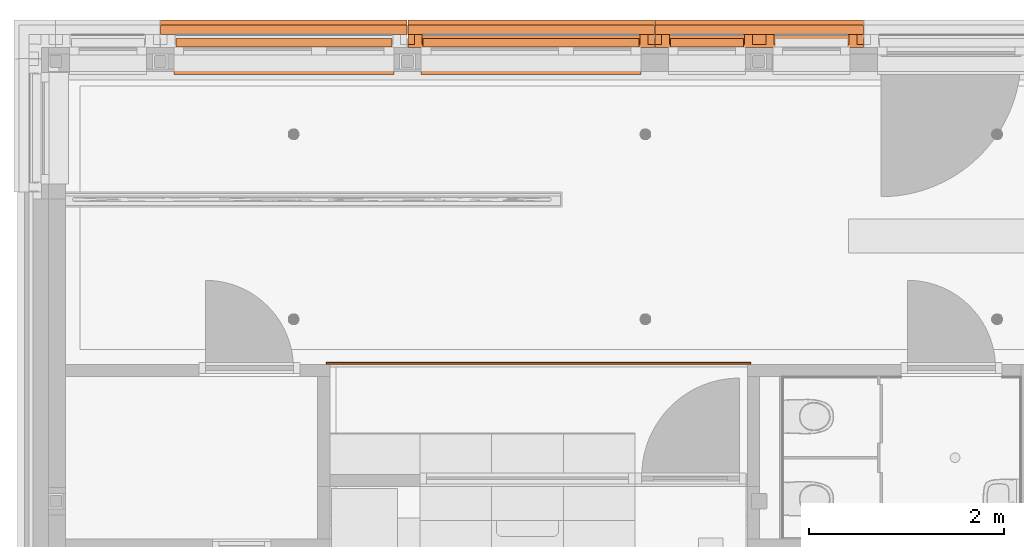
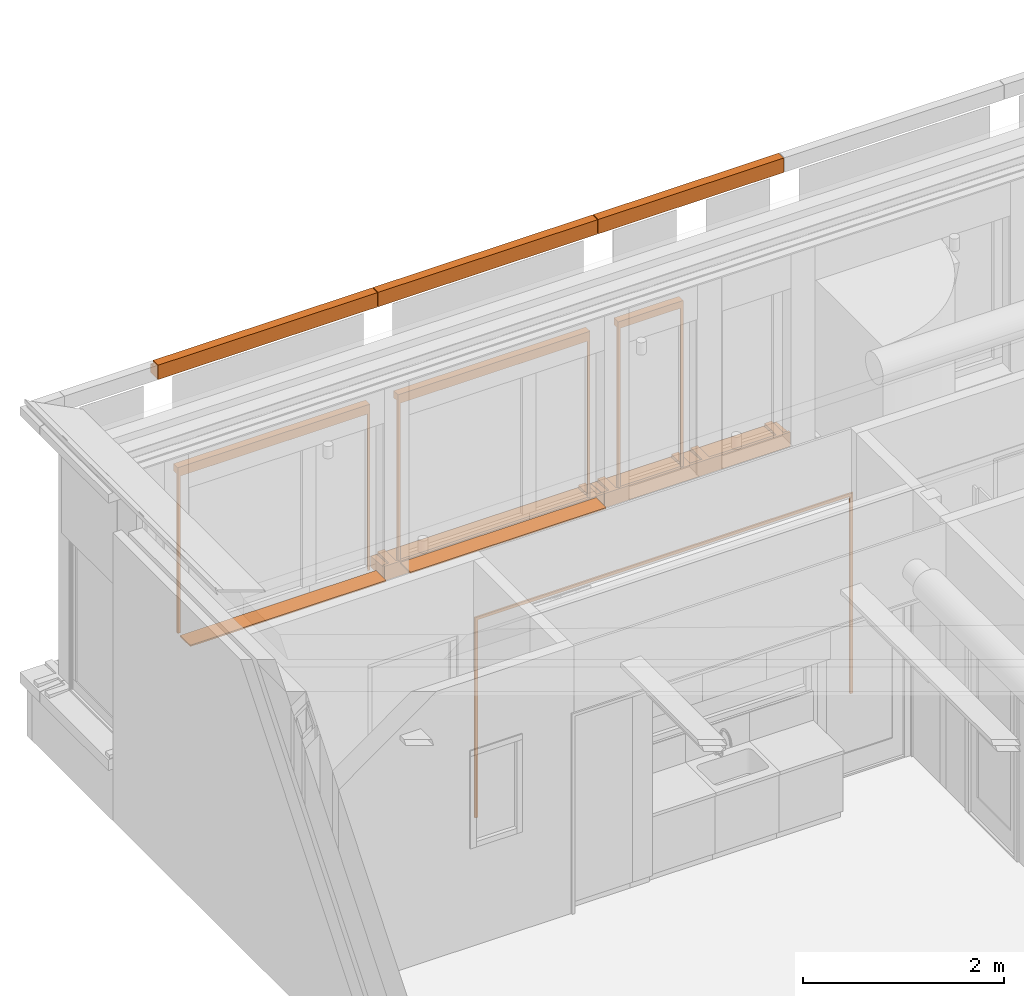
# One storey, part 111 of 128: 11 proxies.
"""IFC2X3 building model written with IfcOpenShell, lengths in millimetres."""

from ifc_helpers import new_model, entity, si_unit, converted_unit, derived_unit, direction, frame, frame_2d, origin, origin_2d_with_axis, place, context, subcontext, project, spatial, polyline, circle_curve, parameter, trimmed, segment, composite_curve, rectangle, outline, extrude, source, transform, mapped, material, material_list, type_object, type_shapes, element, save


model = new_model("IFC2X3")

# Units and contexts
model_context = context("Model", 3, precision=0.01, world=origin(), true_north=direction((6.123031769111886e-17, 1.0)))
body_context = subcontext(model_context, "Body", "Model", "MODEL_VIEW")
ifc_project = project(units=[si_unit("LENGTHUNIT", "METRE", prefix="MILLI"), si_unit("AREAUNIT", "SQUARE_METRE"), si_unit("VOLUMEUNIT", "CUBIC_METRE"), converted_unit("PLANEANGLEUNIT", "DEGREE", entity("IfcRatioMeasure", 0.017453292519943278), si_unit("PLANEANGLEUNIT", "RADIAN"), dimensions=[0, 0, 0, 0, 0, 0, 0]), si_unit("MASSUNIT", "GRAM", prefix="KILO"), derived_unit("MASSDENSITYUNIT", [(si_unit("MASSUNIT", "GRAM", prefix="KILO"), 1), (si_unit("LENGTHUNIT", "METRE"), -3)]), derived_unit("IONCONCENTRATIONUNIT", [(si_unit("MASSUNIT", "GRAM", prefix="KILO"), 1), (si_unit("LENGTHUNIT", "METRE"), -3)]), derived_unit("MOMENTOFINERTIAUNIT", [(si_unit("LENGTHUNIT", "METRE"), 4)]), si_unit("TIMEUNIT", "SECOND"), si_unit("FREQUENCYUNIT", "HERTZ"), si_unit("THERMODYNAMICTEMPERATUREUNIT", "DEGREE_CELSIUS"), derived_unit("THERMALTRANSMITTANCEUNIT", [(si_unit("MASSUNIT", "GRAM", prefix="KILO"), 1), (si_unit("THERMODYNAMICTEMPERATUREUNIT", "KELVIN"), -1), (si_unit("TIMEUNIT", "SECOND"), -3)]), derived_unit("THERMALCONDUCTANCEUNIT", [(si_unit("MASSUNIT", "GRAM", prefix="KILO"), 1), (si_unit("THERMODYNAMICTEMPERATUREUNIT", "KELVIN"), -1), (si_unit("TIMEUNIT", "SECOND"), -3), (si_unit("LENGTHUNIT", "METRE"), 1)]), derived_unit("VOLUMETRICFLOWRATEUNIT", [(si_unit("LENGTHUNIT", "METRE"), 3), (si_unit("TIMEUNIT", "SECOND"), -1)]), derived_unit("MASSFLOWRATEUNIT", [(si_unit("MASSUNIT", "GRAM", prefix="KILO"), 1), (si_unit("TIMEUNIT", "SECOND"), -1)]), derived_unit("ROTATIONALFREQUENCYUNIT", [(si_unit("TIMEUNIT", "SECOND"), -1)]), si_unit("ELECTRICCURRENTUNIT", "AMPERE"), si_unit("ELECTRICVOLTAGEUNIT", "VOLT"), si_unit("POWERUNIT", "WATT"), si_unit("FORCEUNIT", "NEWTON", prefix="KILO"), si_unit("ILLUMINANCEUNIT", "LUX"), si_unit("LUMINOUSFLUXUNIT", "LUMEN"), si_unit("LUMINOUSINTENSITYUNIT", "CANDELA"), derived_unit("USERDEFINED", [(si_unit("MASSUNIT", "GRAM", prefix="KILO"), -1), (si_unit("LENGTHUNIT", "METRE"), -2), (si_unit("TIMEUNIT", "SECOND"), 3), (si_unit("LUMINOUSFLUXUNIT", "LUMEN"), 1)]), derived_unit("USERDEFINED", [(si_unit("MASSUNIT", "GRAM", prefix="KILO"), 1), (si_unit("TIMEUNIT", "SECOND"), -3), (si_unit("LENGTHUNIT", "METRE"), 3), (si_unit("ELECTRICCURRENTUNIT", "AMPERE"), -2)]), derived_unit("SOUNDPOWERUNIT", [(si_unit("MASSUNIT", "GRAM", prefix="KILO"), 1), (si_unit("TIMEUNIT", "SECOND"), -3), (si_unit("LENGTHUNIT", "METRE"), 2)]), derived_unit("SOUNDPRESSUREUNIT", [(si_unit("MASSUNIT", "GRAM", prefix="KILO"), 1), (si_unit("LENGTHUNIT", "METRE"), -1), (si_unit("TIMEUNIT", "SECOND"), -2)]), derived_unit("LINEARVELOCITYUNIT", [(si_unit("LENGTHUNIT", "METRE"), 1), (si_unit("TIMEUNIT", "SECOND"), -1)]), si_unit("PRESSUREUNIT", "PASCAL"), derived_unit("USERDEFINED", [(si_unit("MASSUNIT", "GRAM", prefix="KILO"), 1), (si_unit("LENGTHUNIT", "METRE"), -2), (si_unit("TIMEUNIT", "SECOND"), -2)]), derived_unit("LINEARFORCEUNIT", [(si_unit("MASSUNIT", "GRAM", prefix="KILO"), 1), (si_unit("TIMEUNIT", "SECOND"), -2)]), derived_unit("PLANARFORCEUNIT", [(si_unit("MASSUNIT", "GRAM", prefix="KILO"), 1), (si_unit("LENGTHUNIT", "METRE"), -1), (si_unit("TIMEUNIT", "SECOND"), -2)]), derived_unit("SPECIFICHEATCAPACITYUNIT", [(si_unit("THERMODYNAMICTEMPERATUREUNIT", "KELVIN"), -1), (si_unit("LENGTHUNIT", "METRE"), 2), (si_unit("TIMEUNIT", "SECOND"), -2)]), derived_unit("HEATINGVALUEUNIT", [(si_unit("LENGTHUNIT", "METRE"), 2), (si_unit("TIMEUNIT", "SECOND"), -2)]), derived_unit("VAPORPERMEABILITYUNIT", [(si_unit("LENGTHUNIT", "METRE"), -1), (si_unit("TIMEUNIT", "SECOND"), 1)]), derived_unit("DYNAMICVISCOSITYUNIT", [(si_unit("MASSUNIT", "GRAM", prefix="KILO"), 1), (si_unit("TIMEUNIT", "SECOND"), -1), (si_unit("LENGTHUNIT", "METRE"), -1)]), derived_unit("THERMALEXPANSIONCOEFFICIENTUNIT", [(si_unit("THERMODYNAMICTEMPERATUREUNIT", "KELVIN"), -1)]), derived_unit("MODULUSOFELASTICITYUNIT", [(si_unit("MASSUNIT", "GRAM", prefix="KILO"), 1), (si_unit("LENGTHUNIT", "METRE"), -1), (si_unit("TIMEUNIT", "SECOND"), -2)]), derived_unit("ISOTHERMALMOISTURECAPACITYUNIT", [(si_unit("LENGTHUNIT", "METRE"), 3), (si_unit("MASSUNIT", "GRAM", prefix="KILO"), -1)]), derived_unit("MOISTUREDIFFUSIVITYUNIT", [(si_unit("TIMEUNIT", "SECOND"), -1), (si_unit("LENGTHUNIT", "METRE"), 2)])], contexts=[model_context])

# Site, building, storey
site_placement = place(None, frame((0.0, 300.0, 0.0)))
site = spatial("IfcSite", under=ifc_project, at=site_placement, Name="<Kadastrale nummers>", CompositionType="ELEMENT")
building_placement = place(site_placement, origin())
building = spatial("IfcBuilding", under=site, at=building_placement, CompositionType="ELEMENT")
storey_placement = place(building_placement, frame((0.0, 0.0, 3560.0000331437)))
storey = spatial("IfcBuildingStorey", under=building, at=storey_placement, Name="01 eerste verdieping", CompositionType="ELEMENT", Elevation=3560.0000331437)

# Proxies
ifc_material_1 = material(Name="ISR_Beton_prefab")
building_element_proxy_type_1 = type_object("IfcBuildingElementProxyType", Name="29_DAT_Prefab betonnen waterslag lang:22", PredefinedType="NOTDEFINED", material=ifc_material_1)
shared_shape_1 = source(origin(), body_context, "Body", "SweptSolid", [
    extrude(outline(polyline([(-16.052237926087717, -115.0), (26.113434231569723, -115.0), (5.9910416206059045, 115.0), (-16.052237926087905, 115.0), (-16.052237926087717, -115.0)])), frame((2377.0, 75.0, -16.05223792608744), z_axis=(1.0, 0.0, 0.0), x_axis=(0.0, 0.0, -1.0)), (0.0, 0.0, 1.0), 79.99999999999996),
    extrude(outline(polyline([(-16.052237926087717, -115.0), (26.113434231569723, -115.0), (5.9910416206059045, 115.0), (-16.052237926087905, 115.0), (-16.052237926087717, -115.0)])), frame((67.0, 75.0, -16.05223792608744), z_axis=(1.0, 0.0, 0.0), x_axis=(0.0, 0.0, -1.0)), (0.0, 0.0, 1.0), 80.00000000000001),
    extrude(outline(composite_curve([segment(polyline([(-140.0, -95.7340207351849), (-110.0, -95.7340207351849)]), True, "CONTINUOUS"), segment(polyline([(-110.0, -95.7340207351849), (-110.0, -73.7340207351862)]), True, "CONTINUOUS"), segment(polyline([(-110.0, -73.7340207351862), (140.0, -51.861854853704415)]), True, "CONTINUOUS"), segment(polyline([(140.0, -51.86185485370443), (140.0, 79.26597926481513)]), True, "CONTINUOUS"), segment(polyline([(140.0, 79.26597926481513), (115.0, 79.26597926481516)]), True, "CONTINUOUS"), segment(trimmed(circle_curve(frame_2d((110.0, 79.26597926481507), x_axis=(1.0, 0.0)), 5.000000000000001), [parameter(179.99999999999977)], [parameter(4.0711099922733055e-13)], True, "PARAMETER"), False, "CONTINUOUS"), segment(polyline([(105.0, 79.26597926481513), (-140.0, 79.26597926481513)]), True, "CONTINUOUS"), segment(polyline([(-140.0, 79.26597926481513), (-140.0, -95.7340207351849)]), True, "CONTINUOUS")], self_intersect=False)), frame((0.0, 80.0, -95.73402073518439), z_axis=(1.0, 0.0, 0.0), x_axis=(0.0, -1.0, 0.0)), (0.0, 0.0, 1.0), 2524.0000000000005),
])
type_shapes(building_element_proxy_type_1, [shared_shape_1])
proxy_1_placement = place(storey_placement, frame((9127.0, 50165.0, 890.0000018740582), z_axis=(0.0, 0.0, 1.0), x_axis=(-1.0, 0.0, 0.0)))
element("IfcBuildingElementProxy", 1, at=proxy_1_placement, inside=storey, type_object=building_element_proxy_type_1, material=ifc_material_1, Name="29_DAT_Prefab betonnen waterslag lang:22", ObjectType="29_DAT_Prefab betonnen waterslag lang:22", context=body_context, shape_type="MappedRepresentation", body=[
    mapped(shared_shape_1, transform((0.0, 0.0, 0.0), scale=1.0)),
])
ifc_material_2 = material(Name="STAAL_RAL 7006")
ifc_material_3 = material(Name="<Unnamed>")
ifc_material_list = material_list([ifc_material_2, ifc_material_3])
building_element_proxy_type_2 = type_object("IfcBuildingElementProxyType", Name="31_DAT_Screen_zonwering_bak85:31_DAT_Screen_zonwering_bak85", PredefinedType="NOTDEFINED", material=ifc_material_list)
shared_shape_2 = source(origin(), body_context, "Body", "SweptSolid", [
    extrude(outline(polyline([(-60.69864841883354, -53.573897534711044), (20.695945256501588, -53.573897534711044), (20.695945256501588, 1.1216926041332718), (22.501351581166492, 1.1216926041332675), (22.501351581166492, 24.626102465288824), (17.501351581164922, 24.626102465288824), (17.501351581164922, 27.826102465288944), (-60.69864841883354, 27.826102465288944), (-60.69864841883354, -53.573897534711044)])), frame((2208.0, -29.62610246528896, 2752.501351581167), z_axis=(1.0, 0.0, 0.0), x_axis=(0.0, 0.0, -1.0)), (0.0, 0.0, 1.0), 1.999999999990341),
    extrude(outline(polyline([(-55.83243227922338, -51.08259835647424), (29.167567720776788, -51.08259835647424), (29.167567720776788, 5.412991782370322), (27.362161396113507, 5.412991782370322), (27.362161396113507, -49.28259835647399), (-54.032432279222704, -49.28259835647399), (-54.032432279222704, 32.117401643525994), (24.16756772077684, 32.117401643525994), (24.16756772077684, 28.91740164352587), (29.167567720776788, 28.91740164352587), (29.167567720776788, 33.917401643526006), (-55.83243227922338, 33.917401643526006), (-55.83243227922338, -51.08259835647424)])), frame((0.0, -33.917401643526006, 2759.1675677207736), z_axis=(1.0, 0.0, 0.0), x_axis=(0.0, 0.0, -1.0)), (0.0, 0.0, 1.0), 2210.000000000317),
    extrude(outline(polyline([(-60.69864841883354, -53.573897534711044), (20.695945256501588, -53.573897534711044), (20.695945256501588, 1.1216926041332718), (22.501351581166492, 1.1216926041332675), (22.501351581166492, 24.626102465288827), (17.501351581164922, 24.626102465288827), (17.501351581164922, 27.826102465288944), (-60.69864841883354, 27.826102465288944), (-60.69864841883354, -53.573897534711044)])), frame((0.0, -29.62610246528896, 2752.501351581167), z_axis=(1.0, 0.0, 0.0), x_axis=(0.0, 0.0, -1.0)), (0.0, 0.0, 1.0), 1.999999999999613),
    extrude(rectangle(XDim=2170.0000000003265, YDim=1.163311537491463, at=frame_2d((1.1368683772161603e-13, -2.1094237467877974e-15), x_axis=(1.0, 0.0))), frame((1105.0, -20.037293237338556, 2723.857769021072)), (0.0, 0.0, 1.0), 6.142230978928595),
    extrude(outline(composite_curve([segment(polyline([(-7.502327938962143, -23.023758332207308), (7.497672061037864, -23.023758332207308)]), True, "CONTINUOUS"), segment(trimmed(circle_curve(frame_2d((7.497672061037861, -21.523758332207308), x_axis=(0.0, -1.0)), 1.4999999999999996), [parameter(359.99999999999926)], [parameter(90.00000000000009)], True, "PARAMETER"), True, "CONTINUOUS"), segment(polyline([(8.997672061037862, -21.523758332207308), (8.997672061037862, 8.976241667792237)]), True, "CONTINUOUS"), segment(trimmed(circle_curve(frame_2d((5.99767206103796, 8.976241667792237), x_axis=(0.0, -1.0)), 3.0), [parameter(90.00000000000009)], [parameter(172.84454900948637)], True, "PARAMETER"), True, "CONTINUOUS"), segment(polyline([(6.371357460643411, 11.952877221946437), (2.232090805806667, 12.470504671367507)]), True, "CONTINUOUS"), segment(trimmed(circle_curve(frame_2d((2.1399803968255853, 11.733933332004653), x_axis=(0.0, -1.0)), 0.7423083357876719), [parameter(172.87199730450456)], [parameter(323.5235343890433)], True, "PARAMETER"), True, "CONTINUOUS"), segment(trimmed(circle_curve(frame_2d((-0.0023279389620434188, 8.976241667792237), x_axis=(0.0, -1.0)), 2.75), [parameter(217.47327986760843)], [parameter(141.78969998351)], True, "PARAMETER"), False, "CONTINUOUS"), segment(trimmed(circle_curve(frame_2d((-2.144636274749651, 11.733933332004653), x_axis=(0.0, -1.0)), 0.7423083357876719), [parameter(39.207114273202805)], [parameter(187.12800269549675)], True, "PARAMETER"), True, "CONTINUOUS"), segment(polyline([(-2.2367466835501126, 12.470504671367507), (-6.376013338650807, 11.952877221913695)]), True, "CONTINUOUS"), segment(trimmed(circle_curve(frame_2d((-6.002327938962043, 8.976241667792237), x_axis=(0.0, -1.0)), 3.0), [parameter(187.1554509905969)], [parameter(269.9999999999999)], True, "PARAMETER"), True, "CONTINUOUS"), segment(polyline([(-9.002327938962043, 8.976241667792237), (-9.002327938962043, -21.523758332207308)]), True, "CONTINUOUS"), segment(trimmed(circle_curve(frame_2d((-7.502327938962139, -21.523758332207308), x_axis=(0.0, -1.0)), 1.5000000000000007), [parameter(269.9999999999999)], [parameter(359.9999999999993)], True, "PARAMETER"), True, "CONTINUOUS")], self_intersect=False)), frame((20.0, -19.997672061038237, 2716.8815273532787), z_axis=(1.0, 0.0, 0.0), x_axis=(0.0, 1.0, 0.0)), (0.0, 0.0, 1.0), 2170.0000000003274),
    extrude(outline(polyline([(-14.638298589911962, -16.231574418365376), (-13.138298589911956, -16.231574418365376), (-13.138298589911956, 12.23272922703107), (-6.116685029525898, 12.23272922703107), (-6.116685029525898, -6.231574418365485), (-1.1166850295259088, -6.231574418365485), (-1.1166850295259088, -4.769580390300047), (-4.579546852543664, -4.769580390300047), (-4.579546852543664, 12.23272922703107), (13.866111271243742, 12.23272922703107), (13.866111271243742, -4.769580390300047), (10.361701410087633, -4.769580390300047), (10.361701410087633, -6.2315744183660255), (15.36170141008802, -6.2315744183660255), (15.36170141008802, 13.768425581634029), (-14.638298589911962, 13.768425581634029), (-14.638298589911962, -16.231574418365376)])), frame((2196.231574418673, -14.638298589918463, 800.0), z_axis=(0.0, 0.0, 1.0), x_axis=(0.0, -1.0, 0.0)), (0.0, 0.0, 1.0), 1930.000000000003),
    extrude(outline(polyline([(-16.231574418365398, -14.638298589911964), (13.768425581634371, -14.638298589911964), (13.76842558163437, 15.361701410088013), (-6.231574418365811, 15.361701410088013), (-6.231574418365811, 10.361701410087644), (-4.769580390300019, 10.361701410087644), (-4.769580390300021, 13.866111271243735), (12.2327292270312, 13.866111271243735), (12.2327292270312, -4.57954685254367), (-4.769580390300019, -4.57954685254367), (-4.769580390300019, -1.1166850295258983), (-6.231574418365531, -1.1166850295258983), (-6.231574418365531, -6.116685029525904), (12.232729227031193, -6.116685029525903), (12.232729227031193, -13.138298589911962), (-16.231574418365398, -13.138298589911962), (-16.231574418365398, -14.638298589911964)])), frame((13.768425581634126, -14.638298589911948, 800.0), z_axis=(0.0, 0.0, 1.0), x_axis=(-1.0, 0.0, 0.0)), (0.0, 0.0, 1.0), 1930.0000000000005),
])
type_shapes(building_element_proxy_type_2, [shared_shape_2])
for number, where, z_axis, x_axis, name in (
    (2, (8970.0, 49951.0, 100.00000187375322), (0.0, 0.0, 1.0), (-1.0, 0.0, 0.0), "31_DAT_Screen_zonwering_bak85:31_DAT_Screen_zonwering_bak85"),
    (3, (6440.0, 49951.0, 100.00000187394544), (0.0, 0.0, 1.0), (-1.0, 0.0, 0.0), "31_DAT_Screen_zonwering_bak85:31_DAT_Screen_zonwering_bak85"),
):
    element("IfcBuildingElementProxy", number, at=place(storey_placement, frame(where, z_axis=z_axis, x_axis=x_axis)), inside=storey, type_object=building_element_proxy_type_2, material=ifc_material_list, Name=name, ObjectType="31_DAT_Screen_zonwering_bak85:31_DAT_Screen_zonwering_bak85", context=body_context, shape_type="MappedRepresentation", body=[
        mapped(shared_shape_2, transform((0.0, 0.0, 0.0), scale=1.0)),
    ])
building_element_proxy_type_3 = type_object("IfcBuildingElementProxyType", Name="29_DAT_Prefab betonband afgeschuind:29_DAT_Prefab betonband afgeschuind", PredefinedType="NOTDEFINED", material=ifc_material_1)
shared_shape_3 = source(origin(), body_context, "Body", "SweptSolid", [
    extrude(outline(polyline([(-94.16666666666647, -83.33333333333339), (80.83333333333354, -83.33333333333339), (80.83333333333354, 16.66666666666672), (18.33333333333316, 16.666666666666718), (8.333333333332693, 66.66666666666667), (-94.16666666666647, 66.66666666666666), (-94.16666666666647, -83.33333333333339)])), frame((0.0, 16.66666666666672, -18.33333333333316), z_axis=(1.0, 0.0, 0.0), x_axis=(0.0, 0.0, 1.0)), (0.0, 0.0, 1.0), 2524.0000000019),
])
type_shapes(building_element_proxy_type_3, [shared_shape_3])
for number, where, z_axis, x_axis, name in (
    (4, (9127.0, 50175.0, 4077.4999668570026), (0.0, 0.0, 1.0), (-1.0, 0.0, 0.0), "29_DAT_Prefab betonband afgeschuind:29_DAT_Prefab betonband afgeschuind"),
    (5, (6597.0, 50175.0, 4077.4999668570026), (0.0, 0.0, 1.0), (-1.0, 0.0, 0.0), "29_DAT_Prefab betonband afgeschuind:29_DAT_Prefab betonband afgeschuind"),
):
    element("IfcBuildingElementProxy", number, at=place(storey_placement, frame(where, z_axis=z_axis, x_axis=x_axis)), inside=storey, type_object=building_element_proxy_type_3, material=ifc_material_1, Name=name, ObjectType="29_DAT_Prefab betonband afgeschuind:29_DAT_Prefab betonband afgeschuind", context=body_context, shape_type="MappedRepresentation", body=[
        mapped(shared_shape_3, transform((0.0, 0.0, 0.0), scale=1.0)),
    ])
building_element_proxy_type_4 = type_object("IfcBuildingElementProxyType", Name="31_DAT_Screen_zonwering_bak85:31_DAT_Screen_zonwering_bak85", PredefinedType="NOTDEFINED", material=ifc_material_list)
shared_shape_4 = source(origin(), body_context, "Body", "SweptSolid", [
    extrude(outline(polyline([(-60.69864841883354, -53.573897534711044), (20.695945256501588, -53.573897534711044), (20.695945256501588, 1.1216926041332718), (22.501351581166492, 1.1216926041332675), (22.501351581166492, 24.626102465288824), (17.501351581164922, 24.626102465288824), (17.501351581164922, 27.826102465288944), (-60.69864841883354, 27.826102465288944), (-60.69864841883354, -53.573897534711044)])), frame((748.0, -29.62610246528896, 2752.501351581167), z_axis=(1.0, 0.0, 0.0), x_axis=(0.0, 0.0, -1.0)), (0.0, 0.0, 1.0), 1.9999999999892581),
    extrude(outline(polyline([(-55.83243227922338, -51.08259835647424), (29.167567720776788, -51.08259835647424), (29.167567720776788, 5.412991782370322), (27.362161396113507, 5.412991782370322), (27.362161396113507, -49.28259835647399), (-54.032432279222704, -49.28259835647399), (-54.032432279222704, 32.117401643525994), (24.16756772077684, 32.117401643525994), (24.16756772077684, 28.91740164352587), (29.167567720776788, 28.91740164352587), (29.167567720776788, 33.917401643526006), (-55.83243227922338, 33.917401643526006), (-55.83243227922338, -51.08259835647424)])), frame((0.0, -33.917401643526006, 2759.1675677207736), z_axis=(1.0, 0.0, 0.0), x_axis=(0.0, 0.0, -1.0)), (0.0, 0.0, 1.0), 749.9999999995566),
    extrude(outline(polyline([(-60.69864841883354, -53.573897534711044), (20.695945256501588, -53.573897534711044), (20.695945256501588, 1.1216926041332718), (22.501351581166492, 1.1216926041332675), (22.501351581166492, 24.626102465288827), (17.501351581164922, 24.626102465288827), (17.501351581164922, 27.826102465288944), (-60.69864841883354, 27.826102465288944), (-60.69864841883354, -53.573897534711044)])), frame((0.0, -29.62610246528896, 2752.501351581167), z_axis=(1.0, 0.0, 0.0), x_axis=(0.0, 0.0, -1.0)), (0.0, 0.0, 1.0), 1.999999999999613),
    extrude(rectangle(XDim=709.9999999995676, YDim=1.163311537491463, at=frame_2d((0.0, -2.1094237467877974e-15), x_axis=(1.0, 0.0))), frame((375.0, -20.037293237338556, 2730.0)), (0.0, 0.0, 1.0), 61.996041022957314),
    extrude(outline(composite_curve([segment(polyline([(-7.502327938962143, -23.023758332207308), (7.497672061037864, -23.023758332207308)]), True, "CONTINUOUS"), segment(trimmed(circle_curve(frame_2d((7.497672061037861, -21.523758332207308), x_axis=(0.0, -1.0)), 1.4999999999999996), [parameter(359.99999999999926)], [parameter(90.00000000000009)], True, "PARAMETER"), True, "CONTINUOUS"), segment(polyline([(8.997672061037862, -21.523758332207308), (8.997672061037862, 8.976241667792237)]), True, "CONTINUOUS"), segment(trimmed(circle_curve(frame_2d((5.99767206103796, 8.976241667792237), x_axis=(0.0, -1.0)), 3.0), [parameter(90.00000000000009)], [parameter(172.84454900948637)], True, "PARAMETER"), True, "CONTINUOUS"), segment(polyline([(6.371357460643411, 11.952877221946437), (2.232090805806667, 12.470504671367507)]), True, "CONTINUOUS"), segment(trimmed(circle_curve(frame_2d((2.1399803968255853, 11.733933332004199), x_axis=(0.0, -1.0)), 0.7423083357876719), [parameter(172.87199730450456)], [parameter(323.5235343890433)], True, "PARAMETER"), True, "CONTINUOUS"), segment(trimmed(circle_curve(frame_2d((-0.0023279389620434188, 8.976241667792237), x_axis=(0.0, -1.0)), 2.75), [parameter(217.47327986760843)], [parameter(141.78969998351)], True, "PARAMETER"), False, "CONTINUOUS"), segment(trimmed(circle_curve(frame_2d((-2.144636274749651, 11.733933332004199), x_axis=(0.0, -1.0)), 0.7423083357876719), [parameter(39.207114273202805)], [parameter(187.12800269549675)], True, "PARAMETER"), True, "CONTINUOUS"), segment(polyline([(-2.2367466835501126, 12.470504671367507), (-6.376013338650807, 11.95287722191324)]), True, "CONTINUOUS"), segment(trimmed(circle_curve(frame_2d((-6.002327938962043, 8.976241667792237), x_axis=(0.0, -1.0)), 3.0), [parameter(187.1554509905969)], [parameter(269.9999999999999)], True, "PARAMETER"), True, "CONTINUOUS"), segment(polyline([(-9.002327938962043, 8.976241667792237), (-9.002327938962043, -21.523758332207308)]), True, "CONTINUOUS"), segment(trimmed(circle_curve(frame_2d((-7.502327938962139, -21.523758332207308), x_axis=(0.0, -1.0)), 1.5000000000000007), [parameter(269.9999999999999)], [parameter(359.9999999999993)], True, "PARAMETER"), True, "CONTINUOUS")], self_intersect=False)), frame((20.0, -19.997672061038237, 2785.0197993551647), z_axis=(1.0, 0.0, 0.0), x_axis=(0.0, 1.0, 0.0)), (0.0, 0.0, 1.0), 709.9999999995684),
    extrude(outline(polyline([(-14.638298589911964, -16.231574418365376), (-13.138298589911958, -16.231574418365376), (-13.138298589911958, 12.232729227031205), (-6.116685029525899, 12.232729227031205), (-6.116685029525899, -6.231574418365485), (-1.116685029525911, -6.231574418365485), (-1.116685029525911, -4.769580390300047), (-4.579546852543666, -4.769580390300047), (-4.579546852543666, 12.23272922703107), (13.86611127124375, 12.23272922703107), (13.86611127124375, -4.769580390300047), (10.36170141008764, -4.769580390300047), (10.36170141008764, -6.2315744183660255), (15.36170141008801, -6.2315744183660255), (15.36170141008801, 13.768425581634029), (-14.638298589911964, 13.768425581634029), (-14.638298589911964, -16.231574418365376)])), frame((736.2315744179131, -14.638298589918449, 800.0), z_axis=(0.0, 0.0, 1.0), x_axis=(0.0, -1.0, 0.0)), (0.0, 0.0, 1.0), 1930.000000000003),
    extrude(outline(polyline([(-16.231574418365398, -14.638298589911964), (13.768425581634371, -14.638298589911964), (13.76842558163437, 15.361701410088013), (-6.231574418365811, 15.361701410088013), (-6.231574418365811, 10.361701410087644), (-4.769580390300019, 10.361701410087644), (-4.769580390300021, 13.866111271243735), (12.2327292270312, 13.866111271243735), (12.2327292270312, -4.57954685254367), (-4.769580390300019, -4.57954685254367), (-4.769580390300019, -1.1166850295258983), (-6.231574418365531, -1.1166850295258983), (-6.231574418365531, -6.116685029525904), (12.232729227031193, -6.116685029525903), (12.232729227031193, -13.138298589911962), (-16.231574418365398, -13.138298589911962), (-16.231574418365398, -14.638298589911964)])), frame((13.768425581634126, -14.638298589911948, 800.0), z_axis=(0.0, 0.0, 1.0), x_axis=(-1.0, 0.0, 0.0)), (0.0, 0.0, 1.0), 1930.0000000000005),
])
type_shapes(building_element_proxy_type_4, [shared_shape_4])
proxy_2_placement = place(storey_placement, frame((10040.0, 49951.0, 100.00000187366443), z_axis=(0.0, 0.0, 1.0), x_axis=(-1.0, 0.0, 0.0)))
element("IfcBuildingElementProxy", 6, at=proxy_2_placement, inside=storey, type_object=building_element_proxy_type_4, material=ifc_material_list, Name="31_DAT_Screen_zonwering_bak85:31_DAT_Screen_zonwering_bak85", ObjectType="31_DAT_Screen_zonwering_bak85:31_DAT_Screen_zonwering_bak85", context=body_context, shape_type="MappedRepresentation", body=[
    mapped(shared_shape_4, transform((0.0, 0.0, 0.0), scale=1.0)),
])
ifc_material_4 = material(Name="e1_natuursteen")
building_element_proxy_type_5 = type_object("IfcBuildingElementProxyType", Name="NLRS_31_GM_WPB_vensterbank natuursteen -SH_gen_ASN:200x18", PredefinedType="USERDEFINED", material=ifc_material_4)
shared_shape_5 = source(origin(), body_context, "Body", "SweptSolid", [
    extrude(rectangle(XDim=200.0, YDim=2250.000000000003, at=origin_2d_with_axis()), frame((0.0, -100.0, 0.0), z_axis=(0.0, 0.0, 1.0), x_axis=(0.0, -1.0, 0.0)), (0.0, 0.0, 1.0), 17.999999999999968),
])
type_shapes(building_element_proxy_type_5, [shared_shape_5])
for number, where, z_axis, x_axis, name in (
    (7, (7865.0, 49668.0, 920.0000018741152), (0.0, 0.0, 1.0), (-1.0, 0.0, 0.0), "NLRS_31_GM_WPB_vensterbank natuursteen -SH_gen_ASN:200x18"),
    (8, (5335.0, 49668.0, 920.0000018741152), (0.0, 0.0, 1.0), (-1.0, 0.0, 0.0), "NLRS_31_GM_WPB_vensterbank natuursteen -SH_gen_ASN:200x18"),
):
    element("IfcBuildingElementProxy", number, at=place(storey_placement, frame(where, z_axis=z_axis, x_axis=x_axis)), inside=storey, type_object=building_element_proxy_type_5, material=ifc_material_4, Name=name, ObjectType="NLRS_31_GM_WPB_vensterbank natuursteen -SH_gen_ASN:200x18", context=body_context, shape_type="MappedRepresentation", body=[
        mapped(shared_shape_5, transform((0.0, 0.0, 0.0), scale=1.0)),
    ])

# Space
space_placement = place(storey_placement, origin())
space = spatial("IfcSpace", under=storey, at=space_placement, Name="1.11", CompositionType="ELEMENT", InteriorOrExteriorSpace="INTERNAL")

# Proxies
ifc_material_5 = material(Name="ISR_HPL Kleur hout")
building_element_proxy_type_6 = type_object("IfcBuildingElementProxyType", Name="82_DAT_Trimlat om element:82_DAT_Trimlat om element", PredefinedType="NOTDEFINED", material=ifc_material_5)
shared_shape_6 = source(origin(), body_context, "Body", "SweptSolid", [
    extrude(rectangle(XDim=19.999999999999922, YDim=34.99999999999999, at=origin_2d_with_axis()), frame((-17.500000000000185, -10.0, 0.0), z_axis=(0.0, 0.0, 1.0), x_axis=(0.0, 1.0, 0.0)), (0.0, 0.0, 1.0), 2400.000000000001),
    extrude(rectangle(XDim=20.000000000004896, YDim=34.99999999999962, at=frame_2d((0.0, -5.400124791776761e-13), x_axis=(1.0, 0.0))), frame((4292.49999999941, -10.0, 0.0), z_axis=(0.0, 0.0, 1.0), x_axis=(0.0, 1.0, 0.0)), (0.0, 0.0, 1.0), 2400.000000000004),
    extrude(rectangle(XDim=19.99999999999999, YDim=4344.999999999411, at=frame_2d((0.0, -2.2737367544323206e-13), x_axis=(1.0, 0.0))), frame((2137.499999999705, -10.0, 2400.0), z_axis=(0.0, 0.0, 1.0), x_axis=(0.0, 1.0, 0.0)), (0.0, 0.0, 1.0), 34.99999999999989),
])
type_shapes(building_element_proxy_type_6, [shared_shape_6])
proxy_3_placement = place(space_placement, frame((10080.0, 46700.0, 90.00000187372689), z_axis=(0.0, 0.0, 1.0), x_axis=(-1.0, 0.0, 0.0)))
element("IfcBuildingElementProxy", 9, at=proxy_3_placement, inside=space, type_object=building_element_proxy_type_6, material=ifc_material_5, Name="82_DAT_Trimlat om element:82_DAT_Trimlat om element", ObjectType="82_DAT_Trimlat om element:82_DAT_Trimlat om element", context=body_context, shape_type="MappedRepresentation", body=[
    mapped(shared_shape_6, transform((0.0, 0.0, 0.0), scale=1.0)),
])
building_element_proxy_type_7 = type_object("IfcBuildingElementProxyType", Name="29_DAT_Prefab betonnen waterslag lang:29 dubbel 1", PredefinedType="NOTDEFINED", material=ifc_material_1)
shared_shape_7 = source(origin(), body_context, "Body", "SweptSolid", [
    extrude(outline(polyline([(-16.052237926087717, -115.0), (26.113434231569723, -115.0), (5.9910416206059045, 115.0), (-16.052237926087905, 115.0), (-16.052237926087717, -115.0)])), frame((1987.0, 75.0, -16.05223792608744), z_axis=(1.0, 0.0, 0.0), x_axis=(0.0, 0.0, -1.0)), (0.0, 0.0, 1.0), 79.99999999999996),
    extrude(outline(polyline([(-16.052237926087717, -115.0), (26.113434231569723, -115.0), (5.9910416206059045, 115.0), (-16.052237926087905, 115.0), (-16.052237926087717, -115.0)])), frame((1137.0, 75.0, -16.05223792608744), z_axis=(1.0, 0.0, 0.0), x_axis=(0.0, 0.0, -1.0)), (0.0, 0.0, 1.0), 79.99999999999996),
    extrude(outline(polyline([(-16.052237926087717, -115.0), (26.113434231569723, -115.0), (5.9910416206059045, 115.0), (-16.052237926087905, 115.0), (-16.052237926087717, -115.0)])), frame((917.0, 75.0, -16.05223792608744), z_axis=(1.0, 0.0, 0.0), x_axis=(0.0, 0.0, -1.0)), (0.0, 0.0, 1.0), 79.99999999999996),
    extrude(outline(polyline([(-16.052237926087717, -115.0), (26.113434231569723, -115.0), (5.9910416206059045, 115.0), (-16.052237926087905, 115.0), (-16.052237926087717, -115.0)])), frame((67.0, 75.0, -16.05223792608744), z_axis=(1.0, 0.0, 0.0), x_axis=(0.0, 0.0, -1.0)), (0.0, 0.0, 1.0), 80.00000000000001),
    extrude(outline(composite_curve([segment(polyline([(-140.0, -95.7340207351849), (-110.0, -95.7340207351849)]), True, "CONTINUOUS"), segment(polyline([(-110.0, -95.7340207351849), (-110.0, -73.7340207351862)]), True, "CONTINUOUS"), segment(polyline([(-110.0, -73.7340207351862), (140.0, -51.861854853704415)]), True, "CONTINUOUS"), segment(polyline([(140.0, -51.86185485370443), (140.0, 79.26597926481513)]), True, "CONTINUOUS"), segment(polyline([(140.0, 79.26597926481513), (115.0, 79.26597926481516)]), True, "CONTINUOUS"), segment(trimmed(circle_curve(frame_2d((110.0, 79.26597926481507), x_axis=(1.0, 0.0)), 5.000000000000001), [parameter(179.99999999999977)], [parameter(4.0711099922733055e-13)], True, "PARAMETER"), False, "CONTINUOUS"), segment(polyline([(105.0, 79.26597926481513), (-140.0, 79.26597926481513)]), True, "CONTINUOUS"), segment(polyline([(-140.0, 79.26597926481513), (-140.0, -95.7340207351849)]), True, "CONTINUOUS")], self_intersect=False)), frame((0.0, 80.0, -95.73402073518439), z_axis=(1.0, 0.0, 0.0), x_axis=(0.0, -1.0, 0.0)), (0.0, 0.0, 1.0), 2134.0000000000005),
])
type_shapes(building_element_proxy_type_7, [shared_shape_7])
proxy_4_placement = place(storey_placement, frame((11267.0, 50165.0, 890.0000018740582), z_axis=(0.0, 0.0, 1.0), x_axis=(-1.0, 0.0, 0.0)))
element("IfcBuildingElementProxy", 10, at=proxy_4_placement, inside=storey, type_object=building_element_proxy_type_7, material=ifc_material_1, Name="29_DAT_Prefab betonnen waterslag lang:29 dubbel 1", ObjectType="29_DAT_Prefab betonnen waterslag lang:29 dubbel 1", context=body_context, shape_type="MappedRepresentation", body=[
    mapped(shared_shape_7, transform((0.0, 0.0, 0.0), scale=1.0)),
])
building_element_proxy_type_8 = type_object("IfcBuildingElementProxyType", Name="29_DAT_Prefab betonband afgeschuind:29_DAT_Prefab betonband afgeschuind", PredefinedType="NOTDEFINED", material=ifc_material_1)
shared_shape_8 = source(origin(), body_context, "Body", "SweptSolid", [
    extrude(outline(polyline([(-94.16666666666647, -83.33333333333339), (80.83333333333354, -83.33333333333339), (80.83333333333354, 16.66666666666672), (18.33333333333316, 16.666666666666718), (8.333333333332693, 66.66666666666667), (-94.16666666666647, 66.66666666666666), (-94.16666666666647, -83.33333333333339)])), frame((0.0, 16.66666666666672, -18.33333333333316), z_axis=(1.0, 0.0, 0.0), x_axis=(0.0, 0.0, 1.0)), (0.0, 0.0, 1.0), 2133.999999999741),
])
type_shapes(building_element_proxy_type_8, [shared_shape_8])
proxy_5_placement = place(storey_placement, frame((11267.0, 50175.0, 4077.499966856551), z_axis=(0.0, 0.0, 1.0), x_axis=(-1.0, 0.0, 0.0)))
element("IfcBuildingElementProxy", 11, at=proxy_5_placement, inside=storey, type_object=building_element_proxy_type_8, material=ifc_material_1, Name="29_DAT_Prefab betonband afgeschuind:29_DAT_Prefab betonband afgeschuind", ObjectType="29_DAT_Prefab betonband afgeschuind:29_DAT_Prefab betonband afgeschuind", context=body_context, shape_type="MappedRepresentation", body=[
    mapped(shared_shape_8, transform((0.0, 0.0, 0.0), scale=1.0)),
])

save(model, "model.ifc")
